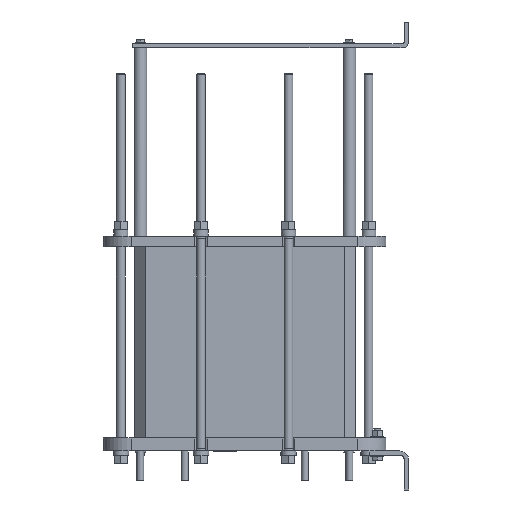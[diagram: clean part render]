
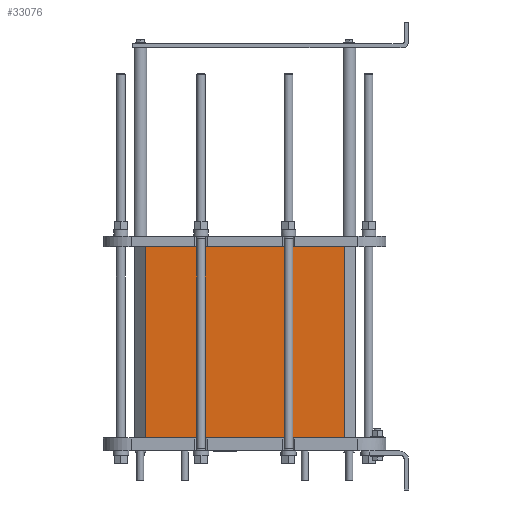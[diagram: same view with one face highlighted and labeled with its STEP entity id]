
A CAD part, left-side view. The second image highlights one B-rep face of the part: STEP entity #33076.
In plain terms, the highlighted planar face has unit normal (-1, 0, 0).
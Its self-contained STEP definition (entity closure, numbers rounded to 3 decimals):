
#30011=CARTESIAN_POINT('',(-166.5,-230.0,0.0));
#30012=VERTEX_POINT('',#30011);
#30019=CARTESIAN_POINT('',(-166.5,230.0,0.0));
#30020=VERTEX_POINT('',#30019);
#30021=CARTESIAN_POINT('',(-166.5,-230.0,0.0));
#30022=DIRECTION('',(0.0,1.0,0.0));
#30023=VECTOR('',#30022,460.0);
#30024=LINE('',#30021,#30023);
#30025=EDGE_CURVE('',#30012,#30020,#30024,.T.);
#31020=CARTESIAN_POINT('',(-166.5,230.0,441.0));
#31021=VERTEX_POINT('',#31020);
#31028=CARTESIAN_POINT('',(-166.5,-230.0,441.0));
#31029=VERTEX_POINT('',#31028);
#31030=CARTESIAN_POINT('',(-166.5,-230.0,441.0));
#31031=DIRECTION('',(0.0,1.0,0.0));
#31032=VECTOR('',#31031,460.0);
#31033=LINE('',#31030,#31032);
#31034=EDGE_CURVE('',#31029,#31021,#31033,.T.);
#33044=CARTESIAN_POINT('',(-166.5,-230.0,0.0));
#33045=DIRECTION('',(0.0,0.0,1.0));
#33046=VECTOR('',#33045,441.0);
#33047=LINE('',#33044,#33046);
#33048=EDGE_CURVE('',#30012,#31029,#33047,.T.);
#33060=CARTESIAN_POINT('',(-166.5,0.0,0.0));
#33061=DIRECTION('',(-1.0,0.0,0.0));
#33062=DIRECTION('',(0.0,0.0,1.0));
#33063=AXIS2_PLACEMENT_3D('',#33060,#33061,#33062);
#33064=PLANE('',#33063);
#33065=ORIENTED_EDGE('',*,*,#31034,.T.);
#33066=CARTESIAN_POINT('',(-166.5,230.0,0.0));
#33067=DIRECTION('',(0.0,0.0,1.0));
#33068=VECTOR('',#33067,441.0);
#33069=LINE('',#33066,#33068);
#33070=EDGE_CURVE('',#30020,#31021,#33069,.T.);
#33071=ORIENTED_EDGE('',*,*,#33070,.F.);
#33072=ORIENTED_EDGE('',*,*,#30025,.F.);
#33073=ORIENTED_EDGE('',*,*,#33048,.T.);
#33074=EDGE_LOOP('',(#33065,#33071,#33072,#33073));
#33075=FACE_OUTER_BOUND('',#33074,.T.);
#33076=ADVANCED_FACE('',(#33075),#33064,.T.);
